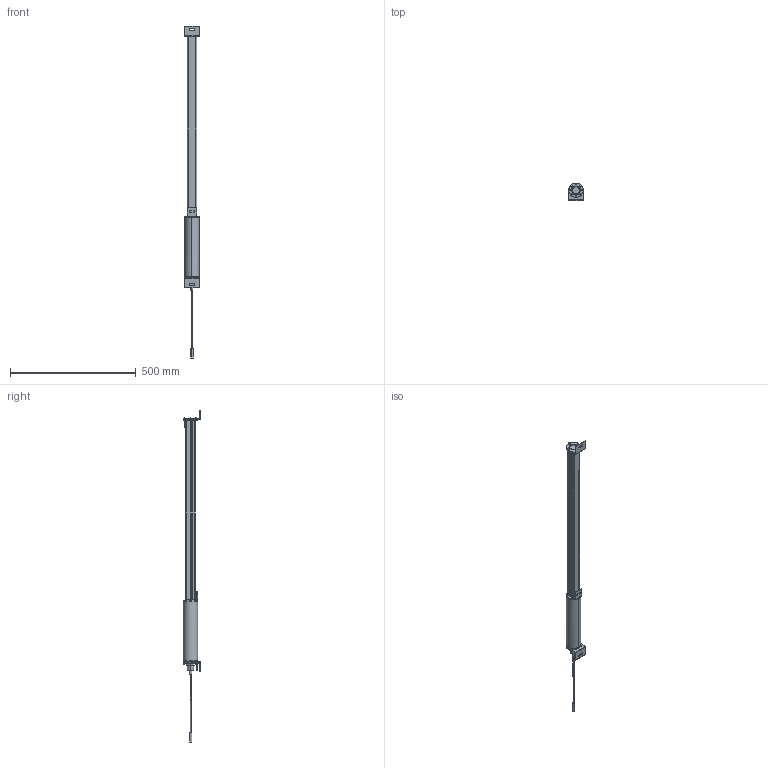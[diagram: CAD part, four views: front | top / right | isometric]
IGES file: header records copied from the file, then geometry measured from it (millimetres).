
Global section: file name: C:\ACADFILES\SS_PYLONS\CUSTOMER_FILES\SS-36-PYLON_3D_SMB.igs; native system: AutoCAD-18.2s (LMS Tech) (Microsoft Windows NT Version 6.1 (x86)); preprocessor: Autodesk IGES Translator Mechanical Desktop 2011 (Feb 18 2011) from Autodesk, Inc.; date: 20140326.150340; units: inch
Bounding box: 57.29 x 69.85 x 1321.17 mm (x, y, z)
Surface area: 526153.8 mm2 (no closed solid volume)
Topology: 0 solids, 0 shells, 1800 faces, 9329 edges, 9504 vertices
Faces by surface type: bspline 1800
